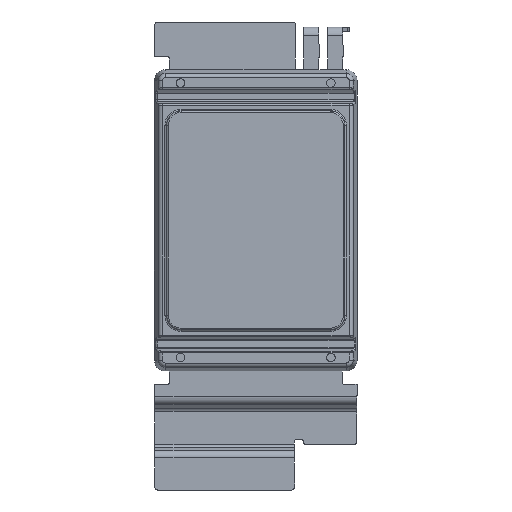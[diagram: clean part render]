
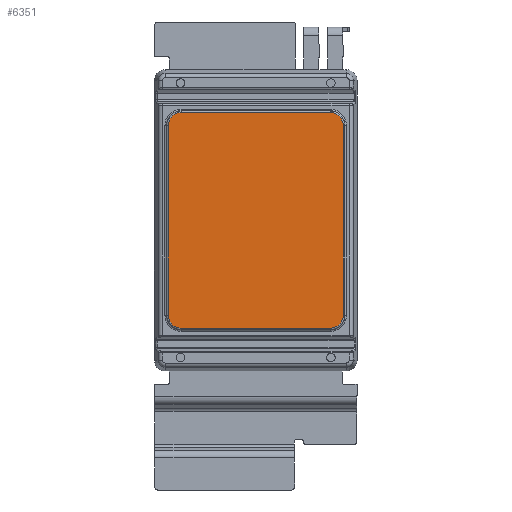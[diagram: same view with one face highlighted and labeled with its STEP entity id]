
A CAD part, front view. The second image highlights one B-rep face of the part: STEP entity #6351.
In plain terms, the highlighted planar face has unit normal (0, -1, 0).
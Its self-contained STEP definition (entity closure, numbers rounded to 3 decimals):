
#187 = ORIENTED_EDGE ( 'NONE', *, *, #8846, .T. ) ;
#489 = AXIS2_PLACEMENT_3D ( 'NONE', #1790, #793, #11153 ) ;
#782 = VERTEX_POINT ( 'NONE', #3441 ) ;
#793 = DIRECTION ( 'NONE',  ( 0., -1., 0. ) ) ;
#935 = EDGE_CURVE ( 'NONE', #7511, #2501, #4692, .T. ) ;
#1317 = CIRCLE ( 'NONE', #11096, 1.209 ) ;
#1408 = CARTESIAN_POINT ( 'NONE',  ( 6.95, 0., 8.85 ) ) ;
#1563 = DIRECTION ( 'NONE',  ( 0., 1., 0. ) ) ;
#1629 = FACE_OUTER_BOUND ( 'NONE', #7456, .T. ) ;
#1790 = CARTESIAN_POINT ( 'NONE',  ( -6.95, 0., 8.85 ) ) ;
#2476 = VERTEX_POINT ( 'NONE', #8744 ) ;
#2501 = VERTEX_POINT ( 'NONE', #10608 ) ;
#2577 = LINE ( 'NONE', #10246, #10296 ) ;
#3057 = EDGE_CURVE ( 'NONE', #2501, #11132, #8982, .T. ) ;
#3332 = CARTESIAN_POINT ( 'NONE',  ( 0., 0., 10.059 ) ) ;
#3441 = CARTESIAN_POINT ( 'NONE',  ( -6.95, 0., 10.059 ) ) ;
#3448 = CARTESIAN_POINT ( 'NONE',  ( -8.159, 0., 0. ) ) ;
#3603 = ORIENTED_EDGE ( 'NONE', *, *, #7263, .T. ) ;
#3755 = DIRECTION ( 'NONE',  ( 1., 0., 0. ) ) ;
#4476 = ORIENTED_EDGE ( 'NONE', *, *, #3057, .T. ) ;
#4692 = LINE ( 'NONE', #11428, #9904 ) ;
#4840 = AXIS2_PLACEMENT_3D ( 'NONE', #6248, #1563, #5245 ) ;
#4959 = VERTEX_POINT ( 'NONE', #12252 ) ;
#5028 = EDGE_CURVE ( 'NONE', #2476, #4959, #2577, .T. ) ;
#5245 = DIRECTION ( 'NONE',  ( 0., 0., 1. ) ) ;
#5257 = ORIENTED_EDGE ( 'NONE', *, *, #5028, .T. ) ;
#5278 = DIRECTION ( 'NONE',  ( -1., 0., 0. ) ) ;
#5323 = VERTEX_POINT ( 'NONE', #10733 ) ;
#5377 = PLANE ( 'NONE',  #4840 ) ;
#5491 = CIRCLE ( 'NONE', #489, 1.209 ) ;
#5496 = DIRECTION ( 'NONE',  ( 0., 0., 1. ) ) ;
#5531 = VECTOR ( 'NONE', #8128, 1000. ) ;
#5721 = CARTESIAN_POINT ( 'NONE',  ( -8.159, 0., 8.85 ) ) ;
#5729 = EDGE_CURVE ( 'NONE', #5323, #2476, #1317, .T. ) ;
#5870 = EDGE_CURVE ( 'NONE', #8999, #5323, #10186, .T. ) ;
#6248 = CARTESIAN_POINT ( 'NONE',  ( 0., 0., 0. ) ) ;
#6351 = ADVANCED_FACE ( 'NONE', ( #1629 ), #5377, .F. ) ;
#7263 = EDGE_CURVE ( 'NONE', #11132, #782, #9084, .T. ) ;
#7456 = EDGE_LOOP ( 'NONE', ( #3603, #187, #8974, #11572, #5257, #8454, #9466, #4476 ) ) ;
#7467 = EDGE_CURVE ( 'NONE', #4959, #7511, #9617, .T. ) ;
#7511 = VERTEX_POINT ( 'NONE', #11211 ) ;
#7984 = AXIS2_PLACEMENT_3D ( 'NONE', #1408, #8091, #11895 ) ;
#8091 = DIRECTION ( 'NONE',  ( 0., -1., 0. ) ) ;
#8128 = DIRECTION ( 'NONE',  ( 0., 0., -1. ) ) ;
#8224 = AXIS2_PLACEMENT_3D ( 'NONE', #9453, #9273, #11447 ) ;
#8454 = ORIENTED_EDGE ( 'NONE', *, *, #7467, .T. ) ;
#8609 = VECTOR ( 'NONE', #5278, 1000. ) ;
#8744 = CARTESIAN_POINT ( 'NONE',  ( -6.95, 0., -10.059 ) ) ;
#8846 = EDGE_CURVE ( 'NONE', #782, #8999, #5491, .T. ) ;
#8974 = ORIENTED_EDGE ( 'NONE', *, *, #5870, .T. ) ;
#8982 = CIRCLE ( 'NONE', #7984, 1.209 ) ;
#8999 = VERTEX_POINT ( 'NONE', #5721 ) ;
#9084 = LINE ( 'NONE', #3332, #8609 ) ;
#9273 = DIRECTION ( 'NONE',  ( 0., -1., 0. ) ) ;
#9453 = CARTESIAN_POINT ( 'NONE',  ( 6.95, 0., -8.85 ) ) ;
#9466 = ORIENTED_EDGE ( 'NONE', *, *, #935, .T. ) ;
#9496 = DIRECTION ( 'NONE',  ( 0., 0., 1. ) ) ;
#9617 = CIRCLE ( 'NONE', #8224, 1.209 ) ;
#9750 = CARTESIAN_POINT ( 'NONE',  ( 6.95, 0., 10.059 ) ) ;
#9904 = VECTOR ( 'NONE', #9496, 1000. ) ;
#10186 = LINE ( 'NONE', #3448, #5531 ) ;
#10246 = CARTESIAN_POINT ( 'NONE',  ( 0., 0., -10.059 ) ) ;
#10296 = VECTOR ( 'NONE', #3755, 1000. ) ;
#10608 = CARTESIAN_POINT ( 'NONE',  ( 8.159, 0., 8.85 ) ) ;
#10733 = CARTESIAN_POINT ( 'NONE',  ( -8.159, 0., -8.85 ) ) ;
#11096 = AXIS2_PLACEMENT_3D ( 'NONE', #12291, #12353, #5496 ) ;
#11132 = VERTEX_POINT ( 'NONE', #9750 ) ;
#11153 = DIRECTION ( 'NONE',  ( 0., 0., 1. ) ) ;
#11211 = CARTESIAN_POINT ( 'NONE',  ( 8.159, 0., -8.85 ) ) ;
#11428 = CARTESIAN_POINT ( 'NONE',  ( 8.159, 0., 0. ) ) ;
#11447 = DIRECTION ( 'NONE',  ( 0., 0., 1. ) ) ;
#11572 = ORIENTED_EDGE ( 'NONE', *, *, #5729, .T. ) ;
#11895 = DIRECTION ( 'NONE',  ( 0., 0., 1. ) ) ;
#12252 = CARTESIAN_POINT ( 'NONE',  ( 6.95, 0., -10.059 ) ) ;
#12291 = CARTESIAN_POINT ( 'NONE',  ( -6.95, 0., -8.85 ) ) ;
#12353 = DIRECTION ( 'NONE',  ( 0., -1., 0. ) ) ;
